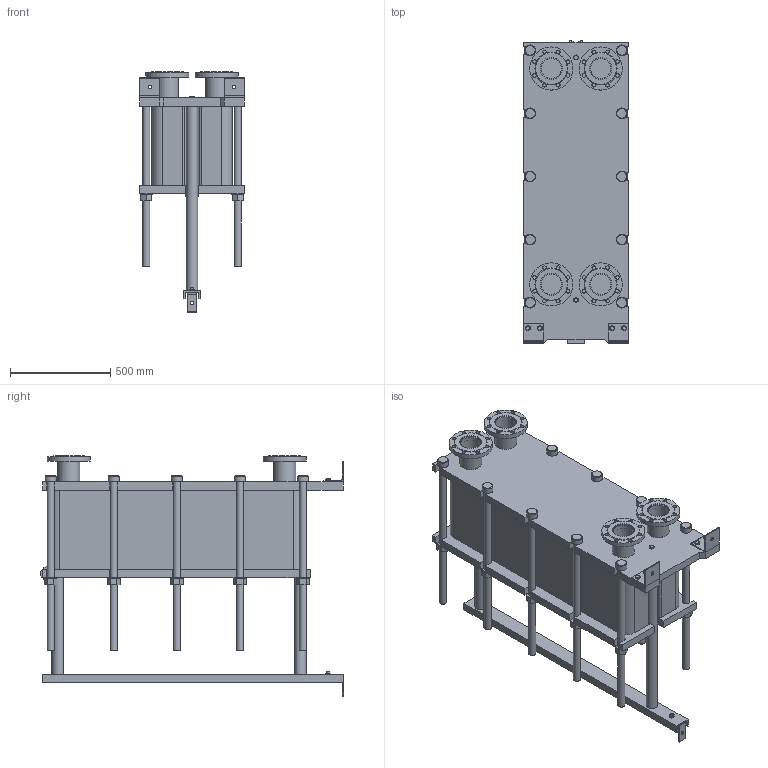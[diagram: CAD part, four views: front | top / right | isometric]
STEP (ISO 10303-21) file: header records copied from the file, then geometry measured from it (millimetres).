
FILE_DESCRIPTION(/* description */ (''),/* implementation_level */ '2;1');
FILE_NAME(/* name */ 'C:\Users\zhuro\Desktop\ENCO\TO\ЭН-04\ЭН-0,5-04-115-1.stp',/* time_stamp */ '2022-06-06T10:55:34+03:00',/* author */ ('zhuro'),/* organization */ (''),/* preprocessor_version */ 'ST-DEVELOPER v18.1',/* originating_system */ 'Autodesk Inventor 2022',/* authorisation */ '');
FILE_SCHEMA (('AUTOMOTIVE_DESIGN { 1 0 10303 214 3 1 1 }'));
Length unit declared in the file: millimetre
Products named in the file (1): ЭН-0,5-04-115-1
Bounding box: 520 x 1510 x 1197.5 mm (x, y, z)
Volume: 270291542.7 mm3; surface area: 8685113.4 mm2
Topology: 45 solids, 45 shells, 668 faces, 1611 edges, 1048 vertices
Faces by surface type: plane 457, cylinder 166, cone 39, torus 6
Full cylindrical faces by diameter (mm): 8 x4, 10 x2, 16 x8, 18 x35, 36 x25, 40 x2, 42 x1, 45 x4, 54 x10, 57 x2, 60 x10, 68 x2, 100 x4, 110 x8, 215 x4
Entity records: 23607 total; most frequent: CARTESIAN_POINT 7348, DIRECTION 3371, ORIENTED_EDGE 3142, EDGE_CURVE 1571, AXIS2_PLACEMENT_3D 1199, VERTEX_POINT 1044, LINE 973, VECTOR 973
